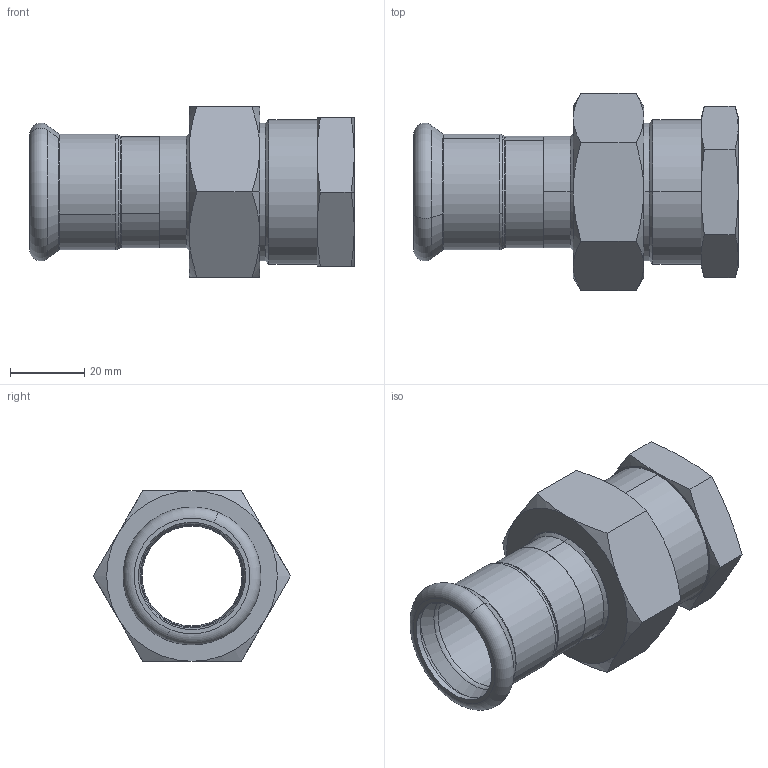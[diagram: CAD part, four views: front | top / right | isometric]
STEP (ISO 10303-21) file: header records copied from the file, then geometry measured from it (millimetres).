
FILE_DESCRIPTION (( 'STEP AP203' ), '1' );
FILE_NAME ('GDA5457.STEP', '2019-01-17T07:36:14', ( '' ), ( '' ), 'SwSTEP 2.0', 'SolidWorks 2015', '' );
FILE_SCHEMA (( 'CONFIG_CONTROL_DESIGN' ));
Length unit declared in the file: millimetre
Products named in the file (6): ZL-Ⅰ-01×1_; T-ｉ-01-28; 囀俋佪蛌遙諉芛1.2-1; 28｡ﾁ1_; GDA5457; 1_
Assembly tree (5 placements, depth 2):
  GDA5457
    28｡ﾁ1_
    T-ｉ-01-28
    ZL-Ⅰ-01×1_
    囀俋佪蛌遙諉芛1.2-1
    1_
Bounding box: 87.5 x 53.12 x 46 mm (x, y, z)
Volume: 45489.8 mm3; surface area: 29661.7 mm2
Topology: 5 solids, 5 shells, 131 faces, 284 edges, 169 vertices
Faces by surface type: cone 51, cylinder 36, plane 28, torus 16
Entity records: 4367 total; most frequent: CARTESIAN_POINT 832, DIRECTION 675, ORIENTED_EDGE 568, AXIS2_PLACEMENT_3D 300, EDGE_CURVE 284, VERTEX_POINT 169, CIRCLE 161, EDGE_LOOP 147
